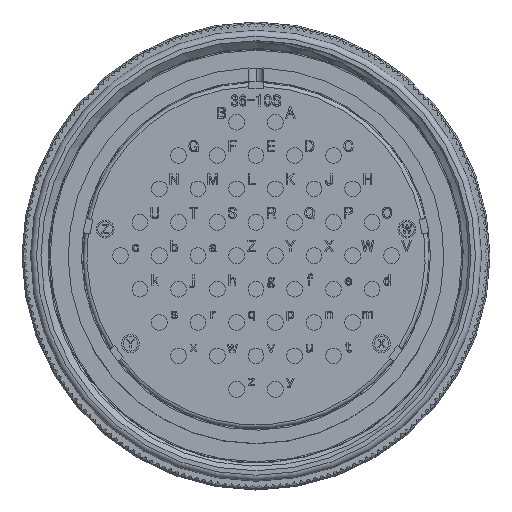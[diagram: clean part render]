
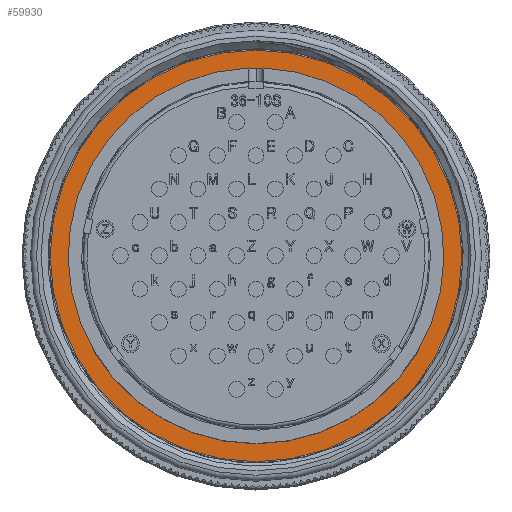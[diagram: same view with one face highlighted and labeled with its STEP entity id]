
A CAD part, top view. The second image highlights one B-rep face of the part: STEP entity #59930.
In plain terms, the highlighted planar face has unit normal (0, 0, 1).
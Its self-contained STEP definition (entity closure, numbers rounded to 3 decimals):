
#2905 = EDGE_LOOP ( 'NONE', ( #20366, #31190 ) ) ;
#8069 = CARTESIAN_POINT ( 'NONE',  ( 0., 27.545, -16.66 ) ) ;
#10321 = EDGE_CURVE ( 'NONE', #79413, #79413, #110439, .T. ) ;
#20366 = ORIENTED_EDGE ( 'NONE', *, *, #190451, .F. ) ;
#27696 = AXIS2_PLACEMENT_3D ( 'NONE', #43257, #143291, #60155 ) ;
#29954 = ORIENTED_EDGE ( 'NONE', *, *, #10321, .T. ) ;
#31190 = ORIENTED_EDGE ( 'NONE', *, *, #52559, .F. ) ;
#32340 = CARTESIAN_POINT ( 'NONE',  ( 0., 0., -16.66 ) ) ;
#36325 = AXIS2_PLACEMENT_3D ( 'NONE', #8069, #191047, #107304 ) ;
#37094 = CIRCLE ( 'NONE', #27696, 25.145 ) ;
#41400 = VERTEX_POINT ( 'NONE', #41413 ) ;
#41413 = CARTESIAN_POINT ( 'NONE',  ( 0.999, 25.125, -16.66 ) ) ;
#42222 = DIRECTION ( 'NONE',  ( 0., 0., 1. ) ) ;
#43257 = CARTESIAN_POINT ( 'NONE',  ( 0., 0., -16.66 ) ) ;
#52559 = EDGE_CURVE ( 'NONE', #88551, #41400, #117013, .T. ) ;
#59930 = ADVANCED_FACE ( 'NONE', ( #172527, #180293 ), #108768, .F. ) ;
#60155 = DIRECTION ( 'NONE',  ( 1., 0., 0. ) ) ;
#79413 = VERTEX_POINT ( 'NONE', #109768 ) ;
#88551 = VERTEX_POINT ( 'NONE', #150595 ) ;
#88697 = AXIS2_PLACEMENT_3D ( 'NONE', #91518, #42222, #123847 ) ;
#91518 = CARTESIAN_POINT ( 'NONE',  ( 0., 0., -16.66 ) ) ;
#107304 = DIRECTION ( 'NONE',  ( -1., 0., 0. ) ) ;
#108768 = PLANE ( 'NONE',  #36325 ) ;
#109768 = CARTESIAN_POINT ( 'NONE',  ( 27.545, 0., -16.66 ) ) ;
#110439 = CIRCLE ( 'NONE', #177931, 27.545 ) ;
#114673 = DIRECTION ( 'NONE',  ( 1., 0., 0. ) ) ;
#115377 = DIRECTION ( 'NONE',  ( 0., 0., 1. ) ) ;
#117013 = CIRCLE ( 'NONE', #88697, 25.145 ) ;
#123847 = DIRECTION ( 'NONE',  ( 1., 0., 0. ) ) ;
#143291 = DIRECTION ( 'NONE',  ( 0., 0., 1. ) ) ;
#150595 = CARTESIAN_POINT ( 'NONE',  ( -0.999, 25.125, -16.66 ) ) ;
#172527 = FACE_BOUND ( 'NONE', #2905, .T. ) ;
#177931 = AXIS2_PLACEMENT_3D ( 'NONE', #32340, #115377, #114673 ) ;
#180293 = FACE_OUTER_BOUND ( 'NONE', #186629, .T. ) ;
#186629 = EDGE_LOOP ( 'NONE', ( #29954 ) ) ;
#190451 = EDGE_CURVE ( 'NONE', #41400, #88551, #37094, .T. ) ;
#191047 = DIRECTION ( 'NONE',  ( 0., 0., -1. ) ) ;
